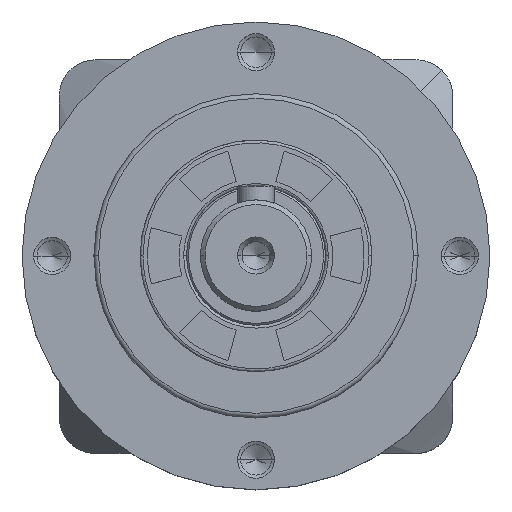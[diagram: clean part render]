
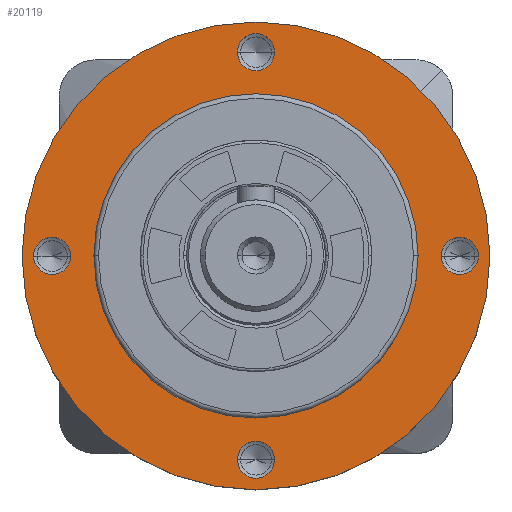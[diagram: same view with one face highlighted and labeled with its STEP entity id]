
A CAD part, top view. The second image highlights one B-rep face of the part: STEP entity #20119.
In plain terms, the highlighted planar face has unit normal (0, 0, 1).
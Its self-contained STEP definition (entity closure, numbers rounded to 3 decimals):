
#146 = DIRECTION ( 'NONE',  ( 0., 0., 1. ) ) ;
#309 = EDGE_LOOP ( 'NONE', ( #19113, #14267 ) ) ;
#466 = DIRECTION ( 'NONE',  ( 0., 0., 1. ) ) ;
#509 = DIRECTION ( 'NONE',  ( 1., 0., 0. ) ) ;
#758 = ORIENTED_EDGE ( 'NONE', *, *, #20335, .T. ) ;
#781 = AXIS2_PLACEMENT_3D ( 'NONE', #17328, #1218, #11356 ) ;
#1049 = CIRCLE ( 'NONE', #25399, 2. ) ;
#1218 = DIRECTION ( 'NONE',  ( 0., 0., 1. ) ) ;
#1529 = EDGE_LOOP ( 'NONE', ( #11087, #4531 ) ) ;
#1883 = CIRCLE ( 'NONE', #10737, 25.25 ) ;
#2076 = DIRECTION ( 'NONE',  ( 1., 0., 0. ) ) ;
#2213 = EDGE_LOOP ( 'NONE', ( #13400, #10410 ) ) ;
#2442 = CARTESIAN_POINT ( 'NONE',  ( 0., 22., 10.8 ) ) ;
#2602 = CARTESIAN_POINT ( 'NONE',  ( -17.5, 0., 10.8 ) ) ;
#2761 = ORIENTED_EDGE ( 'NONE', *, *, #20171, .F. ) ;
#2975 = AXIS2_PLACEMENT_3D ( 'NONE', #23251, #9527, #7183 ) ;
#3225 = AXIS2_PLACEMENT_3D ( 'NONE', #11574, #15835, #11757 ) ;
#3457 = DIRECTION ( 'NONE',  ( 1., 0., 0. ) ) ;
#3763 = VERTEX_POINT ( 'NONE', #11706 ) ;
#4032 = EDGE_CURVE ( 'NONE', #19517, #23014, #4334, .T. ) ;
#4127 = AXIS2_PLACEMENT_3D ( 'NONE', #8407, #22249, #12399 ) ;
#4334 = CIRCLE ( 'NONE', #16191, 2. ) ;
#4418 = EDGE_CURVE ( 'NONE', #3763, #23699, #19155, .T. ) ;
#4506 = CARTESIAN_POINT ( 'NONE',  ( 0., 22., 10.8 ) ) ;
#4531 = ORIENTED_EDGE ( 'NONE', *, *, #15498, .F. ) ;
#5056 = AXIS2_PLACEMENT_3D ( 'NONE', #19941, #146, #2076 ) ;
#5113 = EDGE_CURVE ( 'NONE', #6968, #18061, #23744, .T. ) ;
#5400 = CARTESIAN_POINT ( 'NONE',  ( 24., 0., 10.8 ) ) ;
#6308 = CARTESIAN_POINT ( 'NONE',  ( 0., 0., 10.8 ) ) ;
#6578 = CARTESIAN_POINT ( 'NONE',  ( 2., 22., 10.8 ) ) ;
#6585 = DIRECTION ( 'NONE',  ( 1., 0., 0. ) ) ;
#6942 = CARTESIAN_POINT ( 'NONE',  ( -24., 0., 10.8 ) ) ;
#6968 = VERTEX_POINT ( 'NONE', #11340 ) ;
#7080 = FACE_BOUND ( 'NONE', #8776, .T. ) ;
#7159 = AXIS2_PLACEMENT_3D ( 'NONE', #2442, #12431, #16404 ) ;
#7183 = DIRECTION ( 'NONE',  ( 1., 0., 0. ) ) ;
#7213 = CARTESIAN_POINT ( 'NONE',  ( 0., 0., 10.8 ) ) ;
#7368 = CIRCLE ( 'NONE', #4127, 2. ) ;
#7606 = ORIENTED_EDGE ( 'NONE', *, *, #4032, .F. ) ;
#7963 = CIRCLE ( 'NONE', #16532, 25.25 ) ;
#8178 = ORIENTED_EDGE ( 'NONE', *, *, #21222, .T. ) ;
#8357 = VERTEX_POINT ( 'NONE', #16467 ) ;
#8384 = DIRECTION ( 'NONE',  ( 1., 0., 0. ) ) ;
#8407 = CARTESIAN_POINT ( 'NONE',  ( 0., -22., 10.8 ) ) ;
#8776 = EDGE_LOOP ( 'NONE', ( #2761, #7606 ) ) ;
#9027 = VERTEX_POINT ( 'NONE', #6578 ) ;
#9527 = DIRECTION ( 'NONE',  ( 0., 0., 1. ) ) ;
#9909 = AXIS2_PLACEMENT_3D ( 'NONE', #7213, #23122, #22349 ) ;
#10161 = CARTESIAN_POINT ( 'NONE',  ( 20., 0., 10.8 ) ) ;
#10410 = ORIENTED_EDGE ( 'NONE', *, *, #11613, .F. ) ;
#10541 = EDGE_CURVE ( 'NONE', #15940, #13686, #15972, .T. ) ;
#10592 = CARTESIAN_POINT ( 'NONE',  ( 0., -22., 10.8 ) ) ;
#10737 = AXIS2_PLACEMENT_3D ( 'NONE', #19342, #22890, #3457 ) ;
#11087 = ORIENTED_EDGE ( 'NONE', *, *, #12655, .F. ) ;
#11340 = CARTESIAN_POINT ( 'NONE',  ( 17.5, 0., 10.8 ) ) ;
#11356 = DIRECTION ( 'NONE',  ( 1., 0., 0. ) ) ;
#11574 = CARTESIAN_POINT ( 'NONE',  ( 22., 0., 10.8 ) ) ;
#11613 = EDGE_CURVE ( 'NONE', #23699, #3763, #23663, .T. ) ;
#11706 = CARTESIAN_POINT ( 'NONE',  ( -20., 0., 10.8 ) ) ;
#11757 = DIRECTION ( 'NONE',  ( 1., 0., 0. ) ) ;
#12051 = AXIS2_PLACEMENT_3D ( 'NONE', #20536, #20369, #6585 ) ;
#12399 = DIRECTION ( 'NONE',  ( 1., 0., 0. ) ) ;
#12431 = DIRECTION ( 'NONE',  ( 0., 0., 1. ) ) ;
#12461 = CIRCLE ( 'NONE', #781, 17.5 ) ;
#12655 = EDGE_CURVE ( 'NONE', #9027, #25328, #15298, .T. ) ;
#12657 = FACE_OUTER_BOUND ( 'NONE', #24727, .T. ) ;
#13288 = CARTESIAN_POINT ( 'NONE',  ( 2., -22., 10.8 ) ) ;
#13400 = ORIENTED_EDGE ( 'NONE', *, *, #4418, .F. ) ;
#13686 = VERTEX_POINT ( 'NONE', #10161 ) ;
#13898 = FACE_BOUND ( 'NONE', #1529, .T. ) ;
#14267 = ORIENTED_EDGE ( 'NONE', *, *, #16552, .F. ) ;
#14406 = DIRECTION ( 'NONE',  ( 0., 0., 1. ) ) ;
#15260 = EDGE_CURVE ( 'NONE', #18061, #6968, #12461, .T. ) ;
#15298 = CIRCLE ( 'NONE', #7159, 2. ) ;
#15400 = DIRECTION ( 'NONE',  ( 1., 0., 0. ) ) ;
#15498 = EDGE_CURVE ( 'NONE', #25328, #9027, #1049, .T. ) ;
#15835 = DIRECTION ( 'NONE',  ( 0., 0., 1. ) ) ;
#15940 = VERTEX_POINT ( 'NONE', #5400 ) ;
#15972 = CIRCLE ( 'NONE', #3225, 2. ) ;
#16191 = AXIS2_PLACEMENT_3D ( 'NONE', #10592, #14406, #509 ) ;
#16304 = ORIENTED_EDGE ( 'NONE', *, *, #15260, .F. ) ;
#16404 = DIRECTION ( 'NONE',  ( 1., 0., 0. ) ) ;
#16467 = CARTESIAN_POINT ( 'NONE',  ( 25.25, 0., 10.8 ) ) ;
#16532 = AXIS2_PLACEMENT_3D ( 'NONE', #6308, #20433, #20259 ) ;
#16552 = EDGE_CURVE ( 'NONE', #13686, #15940, #21126, .T. ) ;
#17286 = DIRECTION ( 'NONE',  ( 0., 0., 1. ) ) ;
#17328 = CARTESIAN_POINT ( 'NONE',  ( 0., 0., 10.8 ) ) ;
#17742 = VERTEX_POINT ( 'NONE', #25564 ) ;
#18061 = VERTEX_POINT ( 'NONE', #2602 ) ;
#18349 = PLANE ( 'NONE',  #12051 ) ;
#19113 = ORIENTED_EDGE ( 'NONE', *, *, #10541, .F. ) ;
#19155 = CIRCLE ( 'NONE', #2975, 2. ) ;
#19342 = CARTESIAN_POINT ( 'NONE',  ( 0., 0., 10.8 ) ) ;
#19517 = VERTEX_POINT ( 'NONE', #22529 ) ;
#19941 = CARTESIAN_POINT ( 'NONE',  ( 22., 0., 10.8 ) ) ;
#20119 = ADVANCED_FACE ( 'NONE', ( #24998, #22256, #7080, #13898, #20416, #12657 ), #18349, .T. ) ;
#20163 = EDGE_LOOP ( 'NONE', ( #16304, #23723 ) ) ;
#20171 = EDGE_CURVE ( 'NONE', #23014, #19517, #7368, .T. ) ;
#20259 = DIRECTION ( 'NONE',  ( 1., 0., 0. ) ) ;
#20335 = EDGE_CURVE ( 'NONE', #17742, #8357, #1883, .T. ) ;
#20369 = DIRECTION ( 'NONE',  ( 0., 0., 1. ) ) ;
#20416 = FACE_BOUND ( 'NONE', #20163, .T. ) ;
#20433 = DIRECTION ( 'NONE',  ( 0., 0., 1. ) ) ;
#20536 = CARTESIAN_POINT ( 'NONE',  ( 0., 0., 10.8 ) ) ;
#21126 = CIRCLE ( 'NONE', #5056, 2. ) ;
#21222 = EDGE_CURVE ( 'NONE', #8357, #17742, #7963, .T. ) ;
#22249 = DIRECTION ( 'NONE',  ( 0., 0., 1. ) ) ;
#22256 = FACE_BOUND ( 'NONE', #2213, .T. ) ;
#22349 = DIRECTION ( 'NONE',  ( 1., 0., 0. ) ) ;
#22529 = CARTESIAN_POINT ( 'NONE',  ( -2., -22., 10.8 ) ) ;
#22890 = DIRECTION ( 'NONE',  ( 0., 0., 1. ) ) ;
#23014 = VERTEX_POINT ( 'NONE', #13288 ) ;
#23122 = DIRECTION ( 'NONE',  ( 0., 0., 1. ) ) ;
#23151 = CARTESIAN_POINT ( 'NONE',  ( -22., 0., 10.8 ) ) ;
#23251 = CARTESIAN_POINT ( 'NONE',  ( -22., 0., 10.8 ) ) ;
#23291 = CARTESIAN_POINT ( 'NONE',  ( -2., 22., 10.8 ) ) ;
#23663 = CIRCLE ( 'NONE', #24540, 2. ) ;
#23699 = VERTEX_POINT ( 'NONE', #6942 ) ;
#23723 = ORIENTED_EDGE ( 'NONE', *, *, #5113, .F. ) ;
#23744 = CIRCLE ( 'NONE', #9909, 17.5 ) ;
#24540 = AXIS2_PLACEMENT_3D ( 'NONE', #23151, #17286, #15400 ) ;
#24727 = EDGE_LOOP ( 'NONE', ( #8178, #758 ) ) ;
#24998 = FACE_BOUND ( 'NONE', #309, .T. ) ;
#25328 = VERTEX_POINT ( 'NONE', #23291 ) ;
#25399 = AXIS2_PLACEMENT_3D ( 'NONE', #4506, #466, #8384 ) ;
#25564 = CARTESIAN_POINT ( 'NONE',  ( -25.25, 0., 10.8 ) ) ;
